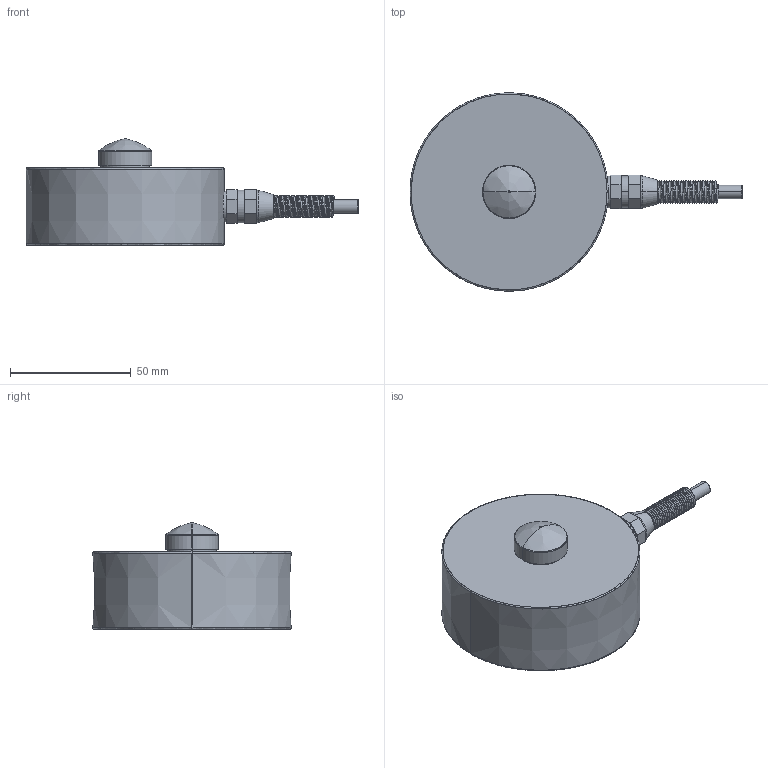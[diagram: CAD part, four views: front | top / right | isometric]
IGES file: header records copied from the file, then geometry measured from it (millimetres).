
Start section: SolidWorks IGES file using analytic representation for surfaces
Global section: file name: O:\16-Entwicklung\Projekte\03_Kraftsensoren\0216_KTB82\01_Mechanik & Gehäuse\01_Solid Works\01_Outline 3D files\3D_KTB82.IGS; native system: SolidWorks 2012; preprocessor: SolidWorks 2012; author: AndreB; date: 140523.124410; units: metre
Bounding box: 137.3 x 82 x 44 mm (x, y, z)
Surface area: 23881.1 mm2 (no closed solid volume)
Topology: 0 solids, 0 shells, 68 faces, 1035 edges, 1029 vertices
Faces by surface type: bspline 40, revolution 28
